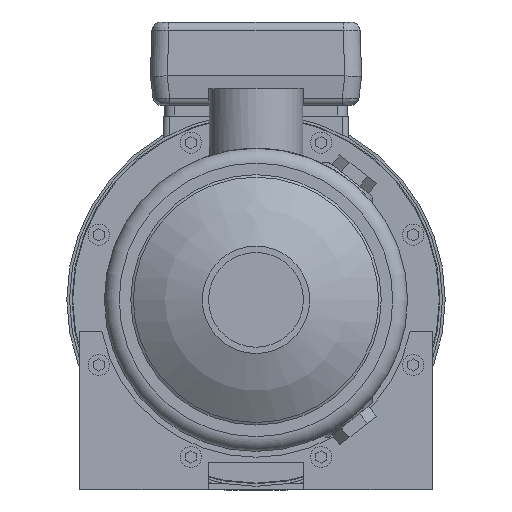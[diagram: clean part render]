
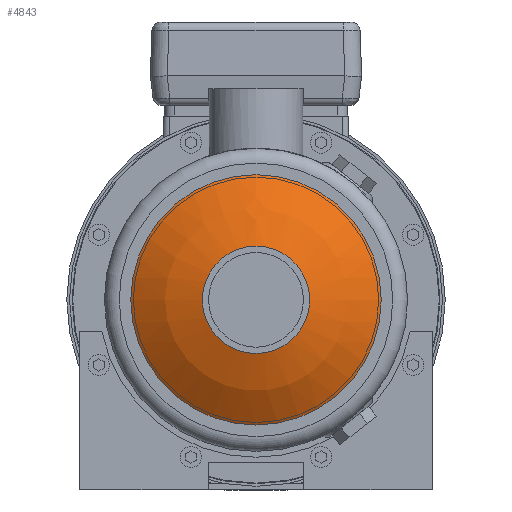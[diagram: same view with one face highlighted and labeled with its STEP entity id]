
A CAD part, left-side view. The second image highlights one B-rep face of the part: STEP entity #4843.
In plain terms, the highlighted spherical face has radius 100 mm.
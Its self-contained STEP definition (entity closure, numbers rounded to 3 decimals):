
#87=SPHERICAL_SURFACE('',#6501,100.);
#1102=ORIENTED_EDGE('',*,*,#2443,.T.);
#1103=ORIENTED_EDGE('',*,*,#2442,.F.);
#2442=EDGE_CURVE('',#3117,#3117,#3579,.T.);
#2443=EDGE_CURVE('',#3118,#3118,#3580,.T.);
#3117=VERTEX_POINT('',#8701);
#3118=VERTEX_POINT('',#8704);
#3579=CIRCLE('',#6500,25.4);
#3580=CIRCLE('',#6502,59.25);
#3802=EDGE_LOOP('',(#1102));
#3803=EDGE_LOOP('',(#1103));
#4240=FACE_BOUND('',#3802,.T.);
#4241=FACE_BOUND('',#3803,.T.);
#4843=ADVANCED_FACE('',(#4240,#4241),#87,.T.);
#6500=AXIS2_PLACEMENT_3D('',#8700,#7103,#7104);
#6501=AXIS2_PLACEMENT_3D('',#8702,#7105,#7106);
#6502=AXIS2_PLACEMENT_3D('',#8703,#7107,#7108);
#7103=DIRECTION('',(-1.,0.,0.));
#7104=DIRECTION('',(0.,0.,1.));
#7105=DIRECTION('',(-1.,0.,0.));
#7106=DIRECTION('',(0.,0.,1.));
#7107=DIRECTION('',(-1.,0.,0.));
#7108=DIRECTION('',(0.,0.,1.));
#8700=CARTESIAN_POINT('',(-52.02,0.,0.));
#8701=CARTESIAN_POINT('',(-52.02,0.,25.4));
#8702=CARTESIAN_POINT('',(44.7,0.,0.));
#8703=CARTESIAN_POINT('',(-35.857,0.,0.));
#8704=CARTESIAN_POINT('',(-35.857,0.,59.25));
